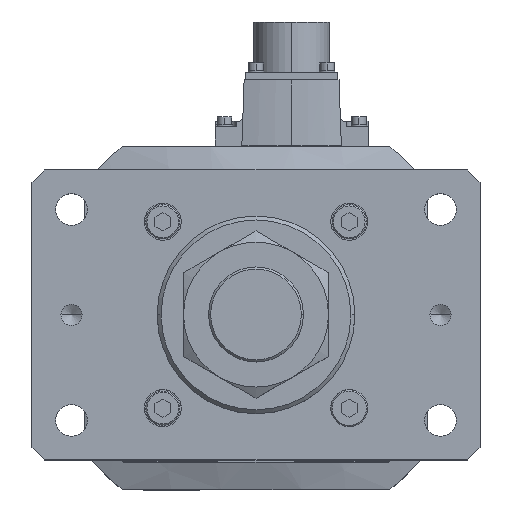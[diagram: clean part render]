
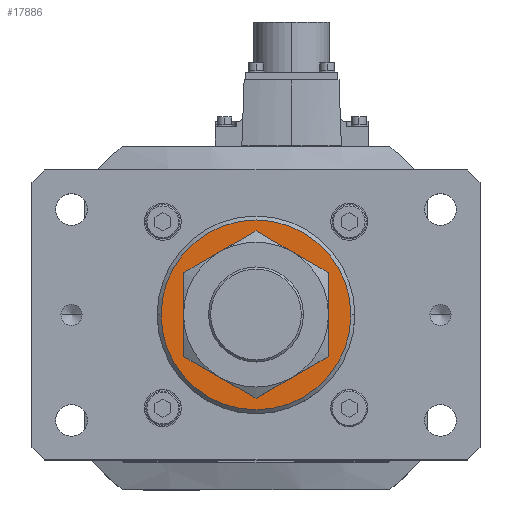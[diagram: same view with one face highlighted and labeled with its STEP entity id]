
A CAD part, top view. The second image highlights one B-rep face of the part: STEP entity #17886.
In plain terms, the highlighted planar face has unit normal (0, 0, 1).
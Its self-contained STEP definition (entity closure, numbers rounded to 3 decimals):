
#609 = DIRECTION ( 'NONE',  ( 1., 0., 0. ) ) ;
#746 = CARTESIAN_POINT ( 'NONE',  ( 23., 0., 446. ) ) ;
#854 = CIRCLE ( 'NONE', #35220, 36. ) ;
#1584 = VERTEX_POINT ( 'NONE', #29860 ) ;
#2420 = ORIENTED_EDGE ( 'NONE', *, *, #24047, .T. ) ;
#2735 = PLANE ( 'NONE',  #25604 ) ;
#3258 = VERTEX_POINT ( 'NONE', #29084 ) ;
#3319 = VERTEX_POINT ( 'NONE', #3796 ) ;
#3796 = CARTESIAN_POINT ( 'NONE',  ( 36., 0., 446. ) ) ;
#4817 = CIRCLE ( 'NONE', #26866, 23. ) ;
#5243 = CARTESIAN_POINT ( 'NONE',  ( 0., 0., 446. ) ) ;
#5894 = FACE_BOUND ( 'NONE', #24855, .T. ) ;
#6157 = DIRECTION ( 'NONE',  ( 1., 0., 0. ) ) ;
#7091 = VERTEX_POINT ( 'NONE', #746 ) ;
#8586 = FACE_OUTER_BOUND ( 'NONE', #18395, .T. ) ;
#10320 = ORIENTED_EDGE ( 'NONE', *, *, #26779, .T. ) ;
#11258 = ORIENTED_EDGE ( 'NONE', *, *, #12352, .T. ) ;
#11435 = CARTESIAN_POINT ( 'NONE',  ( 0., 0., 446. ) ) ;
#12352 = EDGE_CURVE ( 'NONE', #7091, #3258, #29156, .T. ) ;
#13384 = ORIENTED_EDGE ( 'NONE', *, *, #22913, .T. ) ;
#13395 = CARTESIAN_POINT ( 'NONE',  ( 0., 0., 446. ) ) ;
#17639 = CARTESIAN_POINT ( 'NONE',  ( 0., 0., 446. ) ) ;
#17886 = ADVANCED_FACE ( 'NONE', ( #5894, #8586 ), #2735, .T. ) ;
#18395 = EDGE_LOOP ( 'NONE', ( #13384, #10320 ) ) ;
#20970 = AXIS2_PLACEMENT_3D ( 'NONE', #17639, #32025, #6157 ) ;
#22712 = DIRECTION ( 'NONE',  ( 1., 0., 0. ) ) ;
#22913 = EDGE_CURVE ( 'NONE', #1584, #3319, #854, .T. ) ;
#23838 = DIRECTION ( 'NONE',  ( 0., 0., 1. ) ) ;
#24047 = EDGE_CURVE ( 'NONE', #3258, #7091, #4817, .T. ) ;
#24495 = DIRECTION ( 'NONE',  ( 1., 0., 0. ) ) ;
#24855 = EDGE_LOOP ( 'NONE', ( #11258, #2420 ) ) ;
#24933 = AXIS2_PLACEMENT_3D ( 'NONE', #13395, #30630, #24495 ) ;
#25214 = DIRECTION ( 'NONE',  ( 0., 0., 1. ) ) ;
#25532 = DIRECTION ( 'NONE',  ( 1., 0., 0. ) ) ;
#25604 = AXIS2_PLACEMENT_3D ( 'NONE', #5243, #25214, #22712 ) ;
#26779 = EDGE_CURVE ( 'NONE', #3319, #1584, #31389, .T. ) ;
#26866 = AXIS2_PLACEMENT_3D ( 'NONE', #11435, #34198, #25532 ) ;
#29084 = CARTESIAN_POINT ( 'NONE',  ( -23., 0., 446. ) ) ;
#29156 = CIRCLE ( 'NONE', #24933, 23. ) ;
#29860 = CARTESIAN_POINT ( 'NONE',  ( -36., 0., 446. ) ) ;
#30630 = DIRECTION ( 'NONE',  ( 0., 0., -1. ) ) ;
#31389 = CIRCLE ( 'NONE', #20970, 36. ) ;
#32025 = DIRECTION ( 'NONE',  ( 0., 0., 1. ) ) ;
#34198 = DIRECTION ( 'NONE',  ( 0., 0., -1. ) ) ;
#35220 = AXIS2_PLACEMENT_3D ( 'NONE', #35244, #23838, #609 ) ;
#35244 = CARTESIAN_POINT ( 'NONE',  ( 0., 0., 446. ) ) ;
